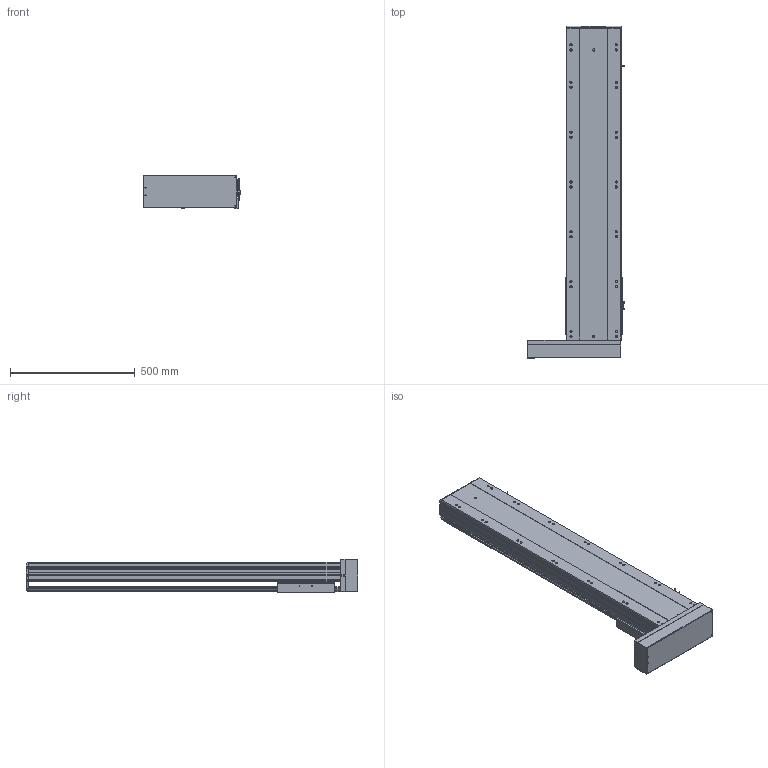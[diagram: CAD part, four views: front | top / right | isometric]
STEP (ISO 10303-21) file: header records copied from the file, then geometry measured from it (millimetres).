
FILE_DESCRIPTION (( 'STEP AP203' ), '1' );
FILE_NAME ('95.STEP', '2022-07-01T12:47:04', ( '' ), ( '' ), 'SwSTEP 2.0', 'SolidWorks 2016', '' );
FILE_SCHEMA (( 'CONFIG_CONTROL_DESIGN' ));
Length unit declared in the file: millimetre
Products named in the file (7): BTH22-BL-04; 95; H130-PCD145; BTH22-BL-菁釱; BTH22-BL-HZ; BTH22-BL-06-PCD145; BTH22-BL-01
Assembly tree (8 placements, depth 2):
  95
    BTH22-BL-菁釱
    BTH22-BL-01
    BTH22-BL-04  x3
    BTH22-BL-HZ
    BTH22-BL-06-PCD145
    H130-PCD145
Bounding box: 389.2 x 1332 x 134 mm (x, y, z)
Volume: 16441022.6 mm3; surface area: 2250476.2 mm2
Topology: 10 solids, 10 shells, 1181 faces, 3273 edges, 2131 vertices
Faces by surface type: plane 634, cylinder 419, bspline 86, cone 42
Entity records: 122774 total; most frequent: CARTESIAN_POINT 56371, ORIENTED_EDGE 14165, DIRECTION 12490, EDGE_CURVE 7588, VERTEX_POINT 4944, AXIS2_PLACEMENT_3D 4592, VECTOR 3306, LINE 3306
